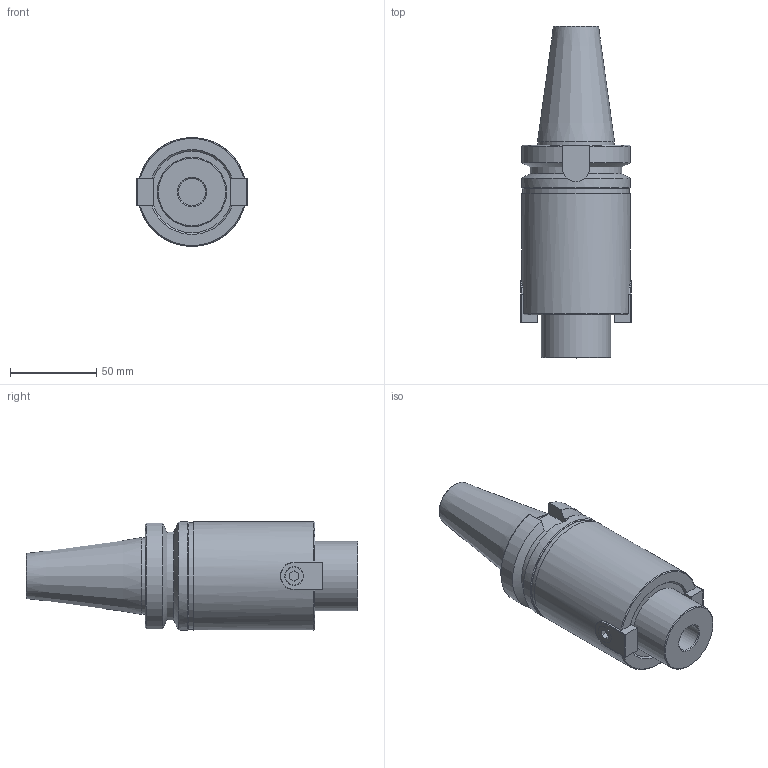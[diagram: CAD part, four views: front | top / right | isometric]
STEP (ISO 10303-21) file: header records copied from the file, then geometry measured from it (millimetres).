
FILE_DESCRIPTION(/* description */ (''),/* implementation_level */ '2;1');
FILE_NAME(/* name */ 'X:\Проектный отдел\Слава\STEP\BT40-FMB40-100.stp',/* time_stamp */ '2022-02-08T11:57:41+03:00',/* author */ ('Евгений'),/* organization */ (''),/* preprocessor_version */ 'ST-DEVELOPER v18',/* originating_system */ 'Autodesk Inventor 2020',/* authorisation */ '');
FILE_SCHEMA (('AUTOMOTIVE_DESIGN { 1 0 10303 214 3 1 1 }'));
Length unit declared in the file: millimetre
Products named in the file (1): BT40-FMB22-60
Bounding box: 64 x 192 x 63 mm (x, y, z)
Volume: 378449.8 mm3; surface area: 44461.2 mm2
Topology: 1 solids, 1 shells, 109 faces, 273 edges, 180 vertices
Faces by surface type: plane 64, cylinder 28, cone 15, torus 2
Full cylindrical faces by diameter (mm): 10.5 x2, 10.7 x2, 16 x2, 17 x1, 40 x1, 44 x1, 61.5 x1, 63 x2
Entity records: 3442 total; most frequent: CARTESIAN_POINT 691, DIRECTION 547, ORIENTED_EDGE 546, EDGE_CURVE 273, AXIS2_PLACEMENT_3D 196, VERTEX_POINT 180, LINE 155, VECTOR 155
